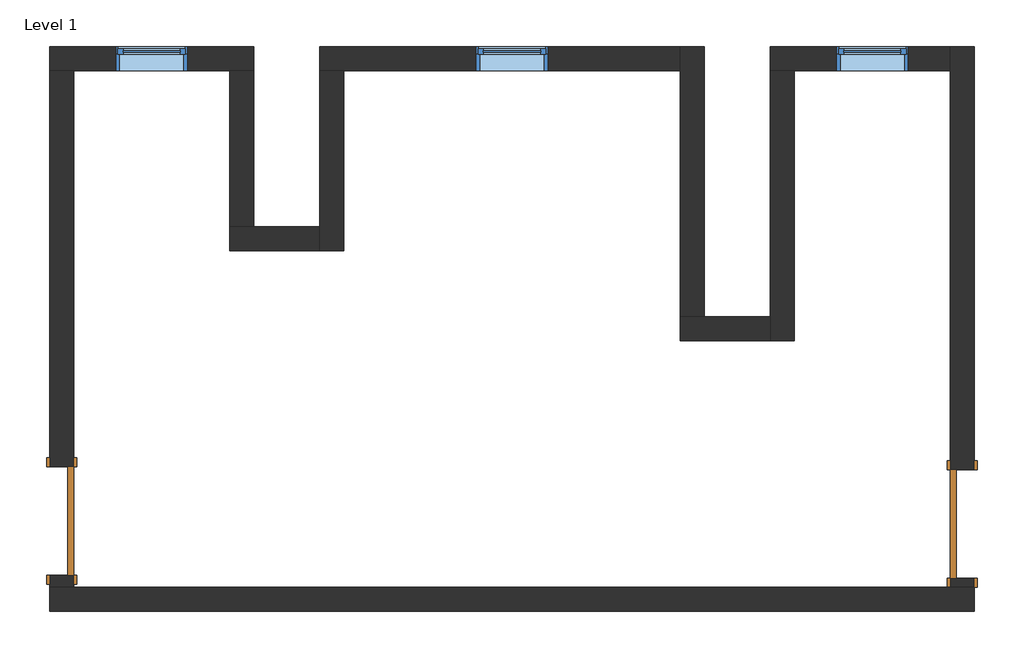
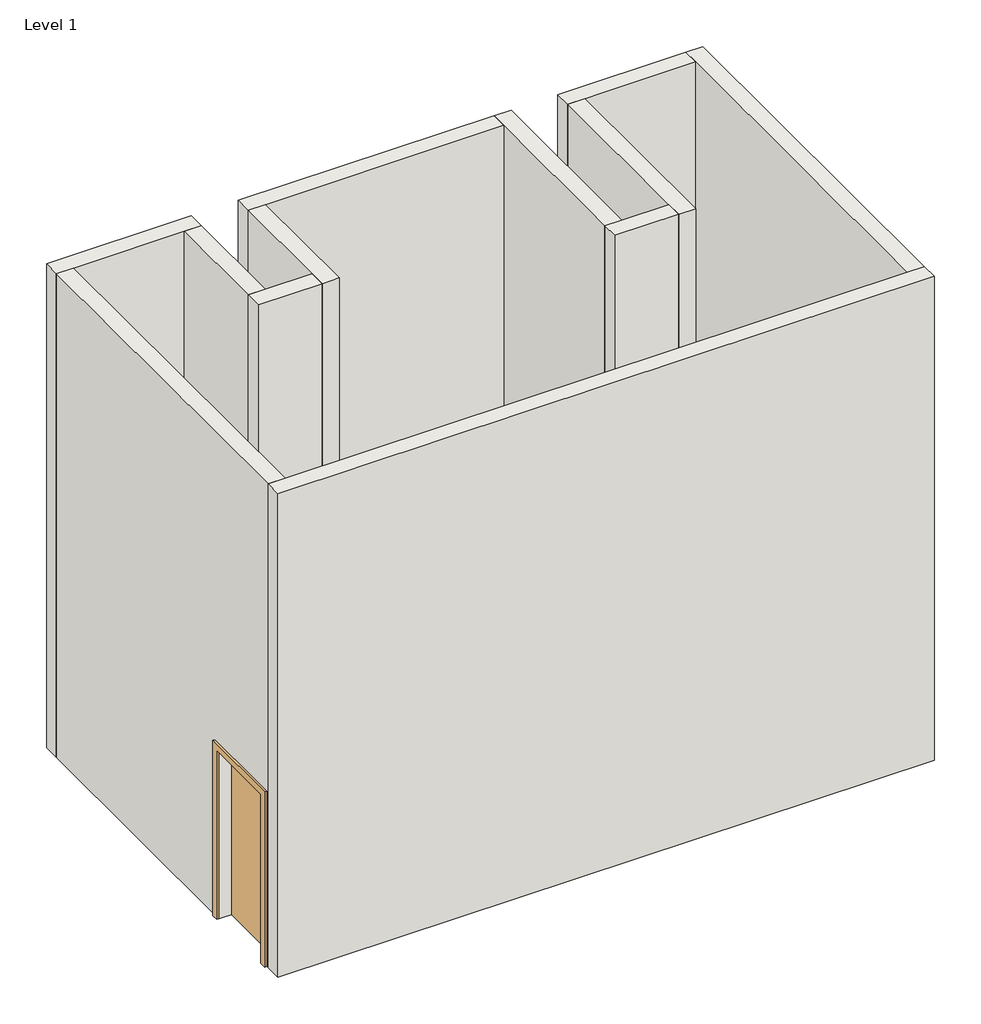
# One storey: 12 walls, 3 windows, 2 doors.
"""IFC4 building model written with IfcOpenShell, lengths in millimetres."""

from ifc_helpers import new_model, si_unit, frame, origin, origin_with_axes, place, context, project, spatial, polyline, outline, extrude, faceted_brep, transform, mapped, element, save
from components import door_54dd4da4, door_719f80de, window_80bd9af0

model = new_model("IFC4")

# Units and contexts
model_context = context("Model", 3, world=origin())
ifc_project = project(units=[si_unit("LENGTHUNIT", "METRE", prefix="MILLI")], contexts=[model_context])

# Site, building, storey
site = spatial("IfcSite", under=ifc_project)
building = spatial("IfcBuilding", under=site)
storey = spatial("IfcBuildingStorey", under=building, Name="Level 1", Elevation=0.0)

# Doors
placement = place(None, origin())
door_shape = door_54dd4da4(model_context)
element("IfcDoor", 1, ObjectType="Single-Flush : 36\" x 84\"", at=placement, inside=storey, context=model_context, shape_type="MappedRepresentation", body=[
    mapped(door_shape, transform((1543.7470165, -1358.5943471, 0.0), x_axis=(0.0, -1.0, 0.0), y_axis=(1.0, 0.0, 0.0), z_axis=(0.0, 0.0, 1.0))),
])
door_2_shape = door_719f80de(model_context)
element("IfcDoor", 2, ObjectType="Single-Flush : 36\" x 84\"", at=placement, inside=storey, context=model_context, shape_type="MappedRepresentation", body=[
    mapped(door_2_shape, transform((9163.7470165, -1383.9943471, 0.0), x_axis=(0.0, -1.0, 0.0), y_axis=(1.0, 0.0, 0.0), z_axis=(0.0, 0.0, 1.0))),
])

# Walls
element("IfcWall", 3, ObjectType="Generic - 8\"", at=placement, inside=storey, context=model_context, shape_type="Brep", body=[
    faceted_brep([(1442.1470165, -2120.5943471, 0.0), (9265.3470165, -2120.5943471, 0.0), (9265.3470165, -2120.5943471, 6096.0), (1442.1470165, -2120.5943471, 6096.0), (1442.1470165, -1917.3943471, 0.0), (1442.1470165, -1917.3943471, 6096.0), (1645.3470165, -1917.3943471, 6096.0), (9062.1470165, -1917.3943471, 6096.0), (9265.3470165, -1917.3943471, 6096.0), (9265.3470165, -1917.3943471, 0.0), (9062.1470165, -1917.3943471, 0.0), (1645.3470165, -1917.3943471, 0.0)], [[[0, 1, 2, 3]], [[4, 5, 6, 7, 8, 9, 10, 11]], [[1, 0, 4, 11, 10, 9]], [[3, 2, 8, 7, 6, 5]], [[2, 1, 9, 8]], [[0, 3, 5, 4]]]),
])
element("IfcWall", 4, ObjectType="Generic - 8\"", at=placement, inside=storey, context=model_context, shape_type="Brep", body=[
    faceted_brep([(9265.3470165, -1917.3943471, 0.0), (9265.3470165, -1841.1943471, 0.0), (9265.3470165, -1841.1943471, 2133.6), (9265.3470165, -926.7943471, 2133.6), (9265.3470165, -926.7943471, 0.0), (9265.3470165, 2654.6056529, 0.0), (9265.3470165, 2654.6056529, 6096.0), (9265.3470165, -1917.3943471, 6096.0), (9062.1470165, -1841.1943471, 2133.6), (9062.1470165, -1841.1943471, 0.0), (9062.1470165, -1917.3943471, 0.0), (9062.1470165, -1917.3943471, 6096.0), (9062.1470165, 2451.4056529, 6096.0), (9062.1470165, 2654.6056529, 6096.0), (9062.1470165, 2654.6056529, 0.0), (9062.1470165, 2451.4056529, 0.0), (9062.1470165, -926.7943471, 0.0), (9062.1470165, -926.7943471, 2133.6)], [[[0, 1, 2, 3, 4, 5, 6, 7]], [[8, 9, 10, 11, 12, 13, 14, 15, 16, 17]], [[10, 9, 1, 0]], [[16, 15, 14, 5, 4]], [[7, 6, 13, 12, 11]], [[6, 5, 14, 13]], [[0, 7, 11, 10]], [[2, 1, 9, 8]], [[3, 2, 8, 17]], [[4, 3, 17, 16]]]),
])
element("IfcWall", 5, ObjectType="Generic - 8\"", at=placement, inside=storey, context=model_context, shape_type="Brep", body=[
    faceted_brep([(9062.1470165, 2654.6056529, 0.0), (7538.1470165, 2654.6056529, 0.0), (7538.1470165, 2654.6056529, 6096.0), (9062.1470165, 2654.6056529, 6096.0), (8706.5470165, 2654.6056529, 2133.6), (8096.9470165, 2654.6056529, 2133.6), (8096.9470165, 2654.6056529, 914.4), (8706.5470165, 2654.6056529, 914.4), (9062.1470165, 2451.4056529, 0.0), (9062.1470165, 2451.4056529, 6096.0), (7741.3470165, 2451.4056529, 6096.0), (7538.1470165, 2451.4056529, 6096.0), (7538.1470165, 2451.4056529, 0.0), (7741.3470165, 2451.4056529, 0.0), (8706.5470165, 2451.4056529, 2133.6), (8706.5470165, 2451.4056529, 914.4), (8096.9470165, 2451.4056529, 914.4), (8096.9470165, 2451.4056529, 2133.6)], [[[0, 1, 2, 3], [4, 5, 6, 7]], [[8, 9, 10, 11, 12, 13], [14, 15, 16, 17]], [[1, 0, 8, 13, 12]], [[3, 2, 11, 10, 9]], [[2, 1, 12, 11]], [[0, 3, 9, 8]], [[15, 14, 4, 7]], [[16, 15, 7, 6]], [[17, 16, 6, 5]], [[14, 17, 5, 4]]]),
])
element("IfcWall", 6, ObjectType="Generic - 8\"", at=placement, inside=storey, context=model_context, shape_type="Brep", body=[
    faceted_brep([(7538.1470165, 2451.4056529, 0.0), (7538.1470165, 368.6056529, 0.0), (7538.1470165, 165.4056529, 0.0), (7538.1470165, 165.4056529, 6096.0), (7538.1470165, 368.6056529, 6096.0), (7538.1470165, 2451.4056529, 6096.0), (7741.3470165, 2451.4056529, 0.0), (7741.3470165, 2451.4056529, 6096.0), (7741.3470165, 165.4056529, 6096.0), (7741.3470165, 165.4056529, 0.0)], [[[0, 1, 2, 3, 4, 5]], [[6, 7, 8, 9]], [[2, 1, 0, 6, 9]], [[5, 4, 3, 8, 7]], [[3, 2, 9, 8]], [[0, 5, 7, 6]]]),
])
element("IfcWall", 7, ObjectType="Generic - 8\"", at=placement, inside=storey, context=model_context, shape_type="Brep", body=[
    faceted_brep([(7538.1470165, 368.6056529, 0.0), (6979.3470165, 368.6056529, 0.0), (6776.1470165, 368.6056529, 0.0), (6776.1470165, 368.6056529, 6096.0), (6979.3470165, 368.6056529, 6096.0), (7538.1470165, 368.6056529, 6096.0), (7538.1470165, 165.4056529, 0.0), (7538.1470165, 165.4056529, 6096.0), (6776.1470165, 165.4056529, 6096.0), (6776.1470165, 165.4056529, 0.0)], [[[0, 1, 2, 3, 4, 5]], [[6, 7, 8, 9]], [[2, 1, 0, 6, 9]], [[5, 4, 3, 8, 7]], [[3, 2, 9, 8]], [[0, 5, 7, 6]]]),
])
element("IfcWall", 8, ObjectType="Generic - 8\"", at=placement, inside=storey, context=model_context, shape_type="Brep", body=[
    faceted_brep([(6979.3470165, 368.6056529, 0.0), (6979.3470165, 2654.6056529, 0.0), (6979.3470165, 2654.6056529, 6096.0), (6979.3470165, 368.6056529, 6096.0), (6776.1470165, 368.6056529, 0.0), (6776.1470165, 368.6056529, 6096.0), (6776.1470165, 2451.4056529, 6096.0), (6776.1470165, 2654.6056529, 6096.0), (6776.1470165, 2654.6056529, 0.0), (6776.1470165, 2451.4056529, 0.0)], [[[0, 1, 2, 3]], [[4, 5, 6, 7, 8, 9]], [[1, 0, 4, 9, 8]], [[3, 2, 7, 6, 5]], [[2, 1, 8, 7]], [[0, 3, 5, 4]]]),
])
element("IfcWall", 9, ObjectType="Generic - 8\"", at=placement, inside=storey, context=model_context, shape_type="Brep", body=[
    faceted_brep([(6776.1470165, 2654.6056529, 0.0), (3728.1470165, 2654.6056529, 0.0), (3728.1470165, 2654.6056529, 6096.0), (6776.1470165, 2654.6056529, 6096.0), (5658.5470165, 2654.6056529, 2133.6), (5048.9470165, 2654.6056529, 2133.6), (5048.9470165, 2654.6056529, 914.4), (5658.5470165, 2654.6056529, 914.4), (6776.1470165, 2451.4056529, 0.0), (6776.1470165, 2451.4056529, 6096.0), (3931.3470165, 2451.4056529, 6096.0), (3728.1470165, 2451.4056529, 6096.0), (3728.1470165, 2451.4056529, 0.0), (3931.3470165, 2451.4056529, 0.0), (5658.5470165, 2451.4056529, 2133.6), (5658.5470165, 2451.4056529, 914.4), (5048.9470165, 2451.4056529, 914.4), (5048.9470165, 2451.4056529, 2133.6)], [[[0, 1, 2, 3], [4, 5, 6, 7]], [[8, 9, 10, 11, 12, 13], [14, 15, 16, 17]], [[1, 0, 8, 13, 12]], [[3, 2, 11, 10, 9]], [[2, 1, 12, 11]], [[0, 3, 9, 8]], [[15, 14, 4, 7]], [[16, 15, 7, 6]], [[17, 16, 6, 5]], [[14, 17, 5, 4]]]),
])
element("IfcWall", 10, ObjectType="Generic - 8\"", at=placement, inside=storey, context=model_context, shape_type="Brep", body=[
    faceted_brep([(3728.1470165, 2451.4056529, 0.0), (3728.1470165, 1130.6056529, 0.0), (3728.1470165, 927.4056529, 0.0), (3728.1470165, 927.4056529, 6096.0), (3728.1470165, 1130.6056529, 6096.0), (3728.1470165, 2451.4056529, 6096.0), (3931.3470165, 2451.4056529, 0.0), (3931.3470165, 2451.4056529, 6096.0), (3931.3470165, 927.4056529, 6096.0), (3931.3470165, 927.4056529, 0.0)], [[[0, 1, 2, 3, 4, 5]], [[6, 7, 8, 9]], [[2, 1, 0, 6, 9]], [[5, 4, 3, 8, 7]], [[3, 2, 9, 8]], [[0, 5, 7, 6]]]),
])
element("IfcWall", 11, ObjectType="Generic - 8\"", at=placement, inside=storey, context=model_context, shape_type="Brep", body=[
    faceted_brep([(3169.3470165, 2654.6056529, 0.0), (1442.1470165, 2654.6056529, 0.0), (1442.1470165, 2654.6056529, 6096.0), (3169.3470165, 2654.6056529, 6096.0), (2610.5470165, 2654.6056529, 2133.6), (2000.9470165, 2654.6056529, 2133.6), (2000.9470165, 2654.6056529, 914.4), (2610.5470165, 2654.6056529, 914.4), (3169.3470165, 2451.4056529, 0.0), (3169.3470165, 2451.4056529, 6096.0), (2966.1470165, 2451.4056529, 6096.0), (1645.3470165, 2451.4056529, 6096.0), (1442.1470165, 2451.4056529, 6096.0), (1442.1470165, 2451.4056529, 0.0), (1645.3470165, 2451.4056529, 0.0), (2966.1470165, 2451.4056529, 0.0), (2610.5470165, 2451.4056529, 2133.6), (2610.5470165, 2451.4056529, 914.4), (2000.9470165, 2451.4056529, 914.4), (2000.9470165, 2451.4056529, 2133.6)], [[[0, 1, 2, 3], [4, 5, 6, 7]], [[8, 9, 10, 11, 12, 13, 14, 15], [16, 17, 18, 19]], [[1, 0, 8, 15, 14, 13]], [[3, 2, 12, 11, 10, 9]], [[2, 1, 13, 12]], [[0, 3, 9, 8]], [[17, 16, 4, 7]], [[18, 17, 7, 6]], [[19, 18, 6, 5]], [[16, 19, 5, 4]]]),
])
element("IfcWall", 12, ObjectType="Generic - 8\"", at=placement, inside=storey, context=model_context, shape_type="SweptSolid", body=[
    extrude(outline(polyline([(-1815.7943471, 2133.6), (-1815.7943471, 0.0), (-1917.3943471, 0.0), (-1917.3943471, 6096.0), (2451.4056529, 6096.0), (2451.4056529, 0.0), (-901.3943471, 0.0), (-901.3943471, 2133.6), (-1815.7943471, 2133.6)])), frame((1442.1470165, 0.0, 0.0), z_axis=(1.0, 0.0, 0.0), x_axis=(0.0, 1.0, 0.0)), (0.0, 0.0, 1.0), 203.2),
])
element("IfcWall", 13, ObjectType="Generic - 8\"", at=placement, inside=storey, context=model_context, shape_type="Brep", body=[
    faceted_brep([(3728.1470165, 1130.6056529, 0.0), (3169.3470165, 1130.6056529, 0.0), (2966.1470165, 1130.6056529, 0.0), (2966.1470165, 1130.6056529, 6096.0), (3169.3470165, 1130.6056529, 6096.0), (3728.1470165, 1130.6056529, 6096.0), (3728.1470165, 927.4056529, 0.0), (3728.1470165, 927.4056529, 6096.0), (2966.1470165, 927.4056529, 6096.0), (2966.1470165, 927.4056529, 0.0)], [[[0, 1, 2, 3, 4, 5]], [[6, 7, 8, 9]], [[2, 1, 0, 6, 9]], [[5, 4, 3, 8, 7]], [[3, 2, 9, 8]], [[0, 5, 7, 6]]]),
])
element("IfcWall", 14, ObjectType="Generic - 8\"", at=placement, inside=storey, context=model_context, shape_type="SweptSolid", body=[
    extrude(outline(polyline([(3169.3470165, 2451.4056529), (3169.3470165, 1130.6056529), (2966.1470165, 1130.6056529), (2966.1470165, 2451.4056529), (3169.3470165, 2451.4056529)])), origin_with_axes(), (0.0, 0.0, 1.0), 6096.0),
])

# Windows
window_shape = window_80bd9af0(model_context)
element("IfcWindow", 15, ObjectType="Fixed : 24\" x 48\"", at=placement, inside=storey, context=model_context, shape_type="MappedRepresentation", body=[
    mapped(window_shape, transform((2343.8470165, 2553.0056529, 0.0), x_axis=(1.0, 0.0, 0.0), y_axis=(0.0, 1.0, 0.0), z_axis=(0.0, 0.0, 1.0))),
])
element("IfcWindow", 16, ObjectType="Fixed : 24\" x 48\"", at=placement, inside=storey, context=model_context, shape_type="MappedRepresentation", body=[
    mapped(window_shape, transform((5391.8470165, 2553.0056529, 0.0), x_axis=(1.0, 0.0, 0.0), y_axis=(0.0, 1.0, 0.0), z_axis=(0.0, 0.0, 1.0))),
])
element("IfcWindow", 17, ObjectType="Fixed : 24\" x 48\"", at=placement, inside=storey, context=model_context, shape_type="MappedRepresentation", body=[
    mapped(window_shape, transform((8439.8470165, 2553.0056529, 0.0), x_axis=(1.0, 0.0, 0.0), y_axis=(0.0, 1.0, 0.0), z_axis=(0.0, 0.0, 1.0))),
])

save(model, "model.ifc")
